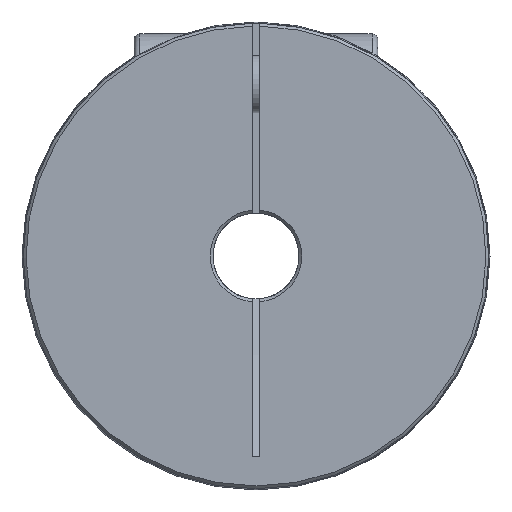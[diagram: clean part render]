
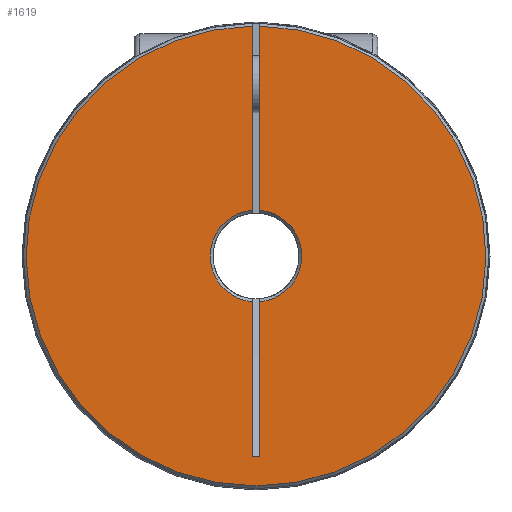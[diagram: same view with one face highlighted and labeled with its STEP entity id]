
A CAD part, left-side view. The second image highlights one B-rep face of the part: STEP entity #1619.
In plain terms, the highlighted planar face has unit normal (-1, 0, 0).
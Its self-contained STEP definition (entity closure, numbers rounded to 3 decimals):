
#114=LINE('',#2597,#200);
#115=LINE('',#2605,#201);
#118=LINE('',#2621,#204);
#121=LINE('',#2632,#207);
#123=LINE('',#2648,#209);
#200=VECTOR('',#2011,1000.);
#201=VECTOR('',#2014,1000.);
#204=VECTOR('',#2023,1000.);
#207=VECTOR('',#2028,1000.);
#209=VECTOR('',#2034,1000.);
#377=ORIENTED_EDGE('',*,*,#777,.T.);
#378=ORIENTED_EDGE('',*,*,#736,.F.);
#379=ORIENTED_EDGE('',*,*,#741,.F.);
#380=ORIENTED_EDGE('',*,*,#726,.T.);
#381=ORIENTED_EDGE('',*,*,#778,.T.);
#382=ORIENTED_EDGE('',*,*,#724,.T.);
#383=ORIENTED_EDGE('',*,*,#779,.F.);
#384=ORIENTED_EDGE('',*,*,#732,.F.);
#724=EDGE_CURVE('',#926,#930,#114,.T.);
#726=EDGE_CURVE('',#933,#931,#115,.T.);
#732=EDGE_CURVE('',#938,#939,#118,.T.);
#736=EDGE_CURVE('',#942,#943,#121,.T.);
#741=EDGE_CURVE('',#933,#942,#123,.T.);
#777=EDGE_CURVE('',#938,#943,#1081,.T.);
#778=EDGE_CURVE('',#931,#926,#1082,.T.);
#779=EDGE_CURVE('',#939,#930,#1083,.T.);
#926=VERTEX_POINT('',#2585);
#930=VERTEX_POINT('',#2596);
#931=VERTEX_POINT('',#2603);
#933=VERTEX_POINT('',#2606);
#938=VERTEX_POINT('',#2620);
#939=VERTEX_POINT('',#2622);
#942=VERTEX_POINT('',#2633);
#943=VERTEX_POINT('',#2634);
#1081=CIRCLE('',#1780,3.2);
#1082=CIRCLE('',#1781,3.2);
#1083=CIRCLE('',#1782,16.05);
#1190=EDGE_LOOP('',(#377,#378,#379,#380,#381,#382,#383,#384));
#1376=FACE_BOUND('',#1190,.T.);
#1543=PLANE('',#1779);
#1619=ADVANCED_FACE('',(#1376),#1543,.F.);
#1779=AXIS2_PLACEMENT_3D('',#2803,#2097,#2098);
#1780=AXIS2_PLACEMENT_3D('',#2804,#2099,#2100);
#1781=AXIS2_PLACEMENT_3D('',#2805,#2101,#2102);
#1782=AXIS2_PLACEMENT_3D('',#2806,#2103,#2104);
#2011=DIRECTION('',(0.,0.,1.));
#2014=DIRECTION('',(0.,0.,1.));
#2023=DIRECTION('',(0.,0.,1.));
#2028=DIRECTION('',(0.,0.,1.));
#2034=DIRECTION('',(0.,-1.,0.));
#2097=DIRECTION('',(1.,0.,0.));
#2098=DIRECTION('',(0.,0.,-1.));
#2099=DIRECTION('',(1.,0.,0.));
#2100=DIRECTION('',(0.,0.,-1.));
#2101=DIRECTION('',(1.,0.,0.));
#2102=DIRECTION('',(0.,0.,-1.));
#2103=DIRECTION('',(1.,0.,0.));
#2104=DIRECTION('',(0.,0.,-1.));
#2585=CARTESIAN_POINT('',(0.,0.25,3.19));
#2596=CARTESIAN_POINT('',(0.,0.25,16.048));
#2597=CARTESIAN_POINT('',(0.,0.25,-13.976));
#2603=CARTESIAN_POINT('',(0.,0.25,-3.19));
#2605=CARTESIAN_POINT('',(0.,0.25,-13.976));
#2606=CARTESIAN_POINT('',(0.,0.25,-13.976));
#2620=CARTESIAN_POINT('',(0.,-0.25,3.19));
#2621=CARTESIAN_POINT('',(0.,-0.25,-13.976));
#2622=CARTESIAN_POINT('',(0.,-0.25,16.048));
#2632=CARTESIAN_POINT('',(0.,-0.25,-13.976));
#2633=CARTESIAN_POINT('',(0.,-0.25,-13.976));
#2634=CARTESIAN_POINT('',(0.,-0.25,-3.19));
#2648=CARTESIAN_POINT('',(0.,0.25,-13.976));
#2803=CARTESIAN_POINT('',(0.,0.,0.));
#2804=CARTESIAN_POINT('',(0.,0.,0.));
#2805=CARTESIAN_POINT('',(0.,0.,0.));
#2806=CARTESIAN_POINT('',(0.,0.,0.));
